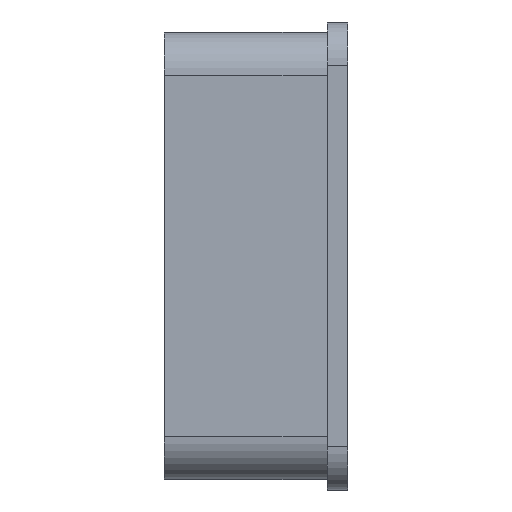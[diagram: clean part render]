
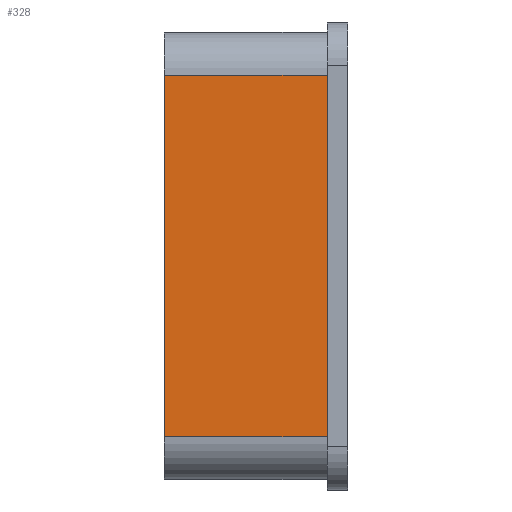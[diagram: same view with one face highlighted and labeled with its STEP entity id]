
A CAD part, left-side view. The second image highlights one B-rep face of the part: STEP entity #328.
In plain terms, the highlighted planar face has unit normal (-1, 0, 0).
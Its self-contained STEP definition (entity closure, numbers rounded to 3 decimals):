
#254 = VERTEX_POINT( '', #718 );
#288 = EDGE_CURVE( '', #362, #480, #753, .T. );
#328 = ADVANCED_FACE( '', ( #799 ), #800, .T. );
#362 = VERTEX_POINT( '', #835 );
#364 = VERTEX_POINT( '', #837 );
#480 = VERTEX_POINT( '', #968 );
#576 = EDGE_CURVE( '', #254, #364, #1079, .T. );
#624 = EDGE_CURVE( '', #364, #480, #1133, .T. );
#694 = EDGE_CURVE( '', #254, #362, #1206, .T. );
#718 = CARTESIAN_POINT( '', ( -3.5, 0., -17.75 ) );
#753 = LINE( '', #1272, #1273 );
#799 = FACE_OUTER_BOUND( '', #1336, .T. );
#800 = PLANE( '', #1337 );
#835 = CARTESIAN_POINT( '', ( -3.5, 0., 17.75 ) );
#837 = CARTESIAN_POINT( '', ( -3.5, -16., -17.75 ) );
#968 = CARTESIAN_POINT( '', ( -3.5, -16., 17.75 ) );
#1079 = LINE( '', #1708, #1709 );
#1133 = LINE( '', #1773, #1774 );
#1206 = LINE( '', #1882, #1883 );
#1272 = CARTESIAN_POINT( '', ( -3.5, 0., 17.75 ) );
#1273 = VECTOR( '', #1906, 1. );
#1336 = EDGE_LOOP( '', ( #1976, #1977, #1978, #1979 ) );
#1337 = AXIS2_PLACEMENT_3D( '', #1980, #1981, #1982 );
#1708 = CARTESIAN_POINT( '', ( -3.5, 0., -17.75 ) );
#1709 = VECTOR( '', #2329, 1. );
#1773 = CARTESIAN_POINT( '', ( -3.5, -16., -17.75 ) );
#1774 = VECTOR( '', #2389, 1. );
#1882 = CARTESIAN_POINT( '', ( -3.5, 0., -17.75 ) );
#1883 = VECTOR( '', #2461, 1. );
#1906 = DIRECTION( '', ( 0., -1., 0. ) );
#1976 = ORIENTED_EDGE( '', *, *, #624, .T. );
#1977 = ORIENTED_EDGE( '', *, *, #288, .F. );
#1978 = ORIENTED_EDGE( '', *, *, #694, .F. );
#1979 = ORIENTED_EDGE( '', *, *, #576, .T. );
#1980 = CARTESIAN_POINT( '', ( -3.5, 0., -17.75 ) );
#1981 = DIRECTION( '', ( -1., 0., 0. ) );
#1982 = DIRECTION( '', ( 0., 0., -1. ) );
#2329 = DIRECTION( '', ( 0., -1., 0. ) );
#2389 = DIRECTION( '', ( 0., 0., 1. ) );
#2461 = DIRECTION( '', ( 0., 0., 1. ) );
